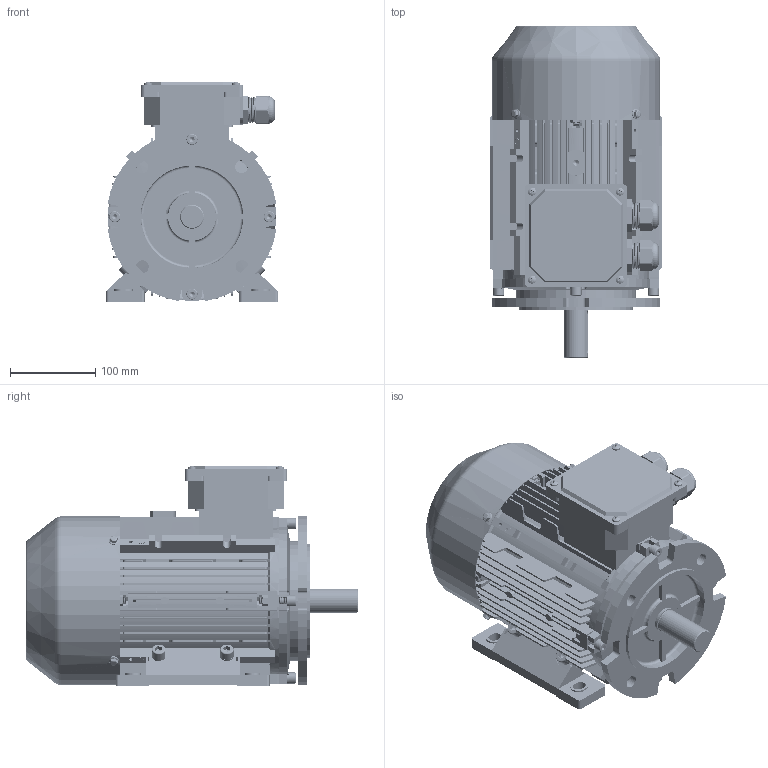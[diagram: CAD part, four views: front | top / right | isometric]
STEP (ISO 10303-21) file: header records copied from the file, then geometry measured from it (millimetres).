
FILE_DESCRIPTION (( 'STEP AP203' ), '1' );
FILE_NAME ('ME3-100B35R 3D.STEP', '2024-07-04T07:46:30', ( 'User' ), ( 'China' ), 'SwSTEP 2.0', 'SolidWorks 2018', '' );
FILE_SCHEMA (( 'CONFIG_CONTROL_DESIGN' ));
Length unit declared in the file: millimetre
Products named in the file (24): MS112-132諉盄碟裔; hexagon socket head cap screws gb_GB_FASTENER_SCREWS_HSHCS M8X35-S; deep groove ball bearings gb_Rolling bearings 6206 GB 276-94; ME3-100 瑞欶; hex nuts, style 2-grades ab gb_GB_HEXAGON_TYPE13 M8 Normal Style-S; ME3-100转轴（206.5）; hex flange bolts-heavy grade b gb_GB_FASTENER_BOLT_HFBB M5X10-S; wave single coil spring lock washers gb_GB_FASTENER_WASHER_WSLW 8; 蚐猾45X30X7; ME3-100B5R傷裔; hexagon socket head cap screws gb_GB_FASTENER_SCREWS_HSHCS M8X25-S; ME 3 100 瑞珔; ME3-100B35R  3D; wave single coil spring lock washers gb_GB_FASTENER_WASHER_WSLW 10; circlips for shaft--type b gb_GB_CONNECTING_PIECE_RINGS_CSB 22; hexagon socket head cap screws gb_GB_FASTENER_SCREWS_HSHCS M10X30-S; MS112-132 諉盄碟釱; ME3-100 儂褲; hex nuts, style 2-grades ab gb_GB_HEXAGON_TYPE13 M10 Normal Style-S; M24 蹟杶; ME3-100菁褐; cross recessed pan head screws gb_GB_CROSS_SCREWS_TYPE1 M5X8-8  H type-S; M24 蹟杶簸; ME3-100ヶ傷裔B3
Assembly tree (63 placements, depth 2):
  ME3-100B35R  3D
    ME3-100 儂褲
    ME3-100菁褐  x2
    ME3-100ヶ傷裔B3
    deep groove ball bearings gb_Rolling bearings 6206 GB 276-94  x2
    ME3-100转轴（206.5）
    蚐猾45X30X7
    ME 3 100 瑞珔
    circlips for shaft--type b gb_GB_CONNECTING_PIECE_RINGS_CSB 22
    MS112-132 諉盄碟釱
    M24 蹟杶  x2
    M24 蹟杶簸  x2
    hexagon socket head cap screws gb_GB_FASTENER_SCREWS_HSHCS M8X35-S  x7
    hex nuts, style 2-grades ab gb_GB_HEXAGON_TYPE13 M8 Normal Style-S  x9
    wave single coil spring lock washers gb_GB_FASTENER_WASHER_WSLW 8  x4
    hexagon socket head cap screws gb_GB_FASTENER_SCREWS_HSHCS M8X25-S
    wave single coil spring lock washers gb_GB_FASTENER_WASHER_WSLW 10  x4
    hexagon socket head cap screws gb_GB_FASTENER_SCREWS_HSHCS M10X30-S  x4
    hex nuts, style 2-grades ab gb_GB_HEXAGON_TYPE13 M10 Normal Style-S  x4
    cross recessed pan head screws gb_GB_CROSS_SCREWS_TYPE1 M5X8-8  H type-S  x8
    MS112-132諉盄碟裔
    ME3-100 瑞欶
    hex flange bolts-heavy grade b gb_GB_FASTENER_BOLT_HFBB M5X10-S  x4
    ME3-100B5R傷裔
Bounding box: 201.21 x 388.69 x 258 mm (x, y, z)
Volume: 2158187.2 mm3; surface area: 1224092.9 mm2
Topology: 63 solids, 64 shells, 8607 faces, 20310 edges, 11794 vertices
Faces by surface type: cone 3411, cylinder 2620, plane 2162, torus 250, bspline 84, sphere 80
Entity records: 133574 total; most frequent: CARTESIAN_POINT 34592, ORIENTED_EDGE 20244, DIRECTION 19747, EDGE_CURVE 10122, AXIS2_PLACEMENT_3D 6974, VERTEX_POINT 6287, LINE 5799, VECTOR 5799
